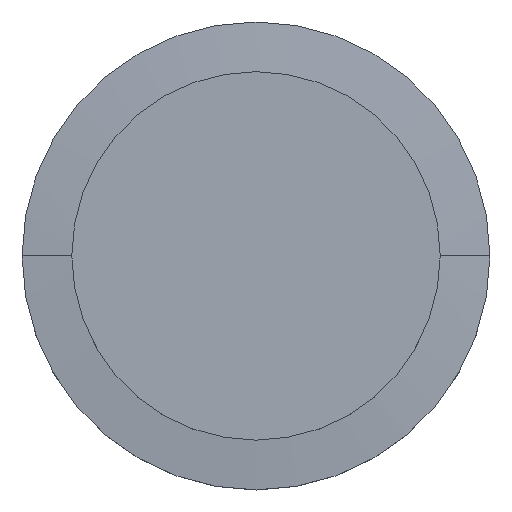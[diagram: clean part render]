
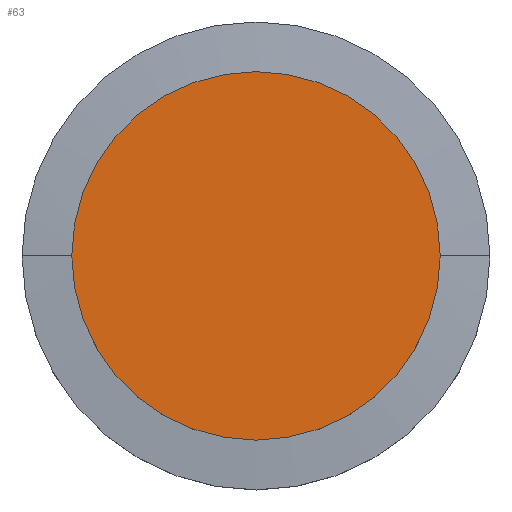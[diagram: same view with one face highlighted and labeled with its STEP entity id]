
A CAD part, top view. The second image highlights one B-rep face of the part: STEP entity #63.
In plain terms, the highlighted planar face has unit normal (0, 0, 1).
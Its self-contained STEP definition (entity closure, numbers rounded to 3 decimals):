
#63=ADVANCED_FACE('',(#83),#84,.T.);
#83=FACE_OUTER_BOUND('',#103,.T.);
#84=PLANE('',#104);
#103=EDGE_LOOP('',(#162,#163));
#104=AXIS2_PLACEMENT_3D('',#164,#165,#166);
#162=ORIENTED_EDGE('',*,*,#180,.T.);
#163=ORIENTED_EDGE('',*,*,#181,.T.);
#164=CARTESIAN_POINT('',(0.0,0.0,8.0));
#165=DIRECTION('',(0.0,0.0,1.0));
#166=DIRECTION('',(1.0,0.0,0.0));
#180=EDGE_CURVE('',#200,#204,#206,.T.);
#181=EDGE_CURVE('',#204,#200,#207,.T.);
#200=VERTEX_POINT('',#228);
#204=VERTEX_POINT('',#233);
#206=CIRCLE('',#236,10.0);
#207=CIRCLE('',#237,10.0);
#228=CARTESIAN_POINT('',(10.0,0.0,8.0));
#233=CARTESIAN_POINT('',(-10.0,0.,8.0));
#236=AXIS2_PLACEMENT_3D('',#270,#271,#272);
#237=AXIS2_PLACEMENT_3D('',#273,#274,#275);
#270=CARTESIAN_POINT('',(0.0,0.0,8.0));
#271=DIRECTION('',(0.0,0.0,1.0));
#272=DIRECTION('',(1.0,0.0,0.0));
#273=CARTESIAN_POINT('',(0.0,0.0,8.0));
#274=DIRECTION('',(0.0,0.0,1.0));
#275=DIRECTION('',(1.0,0.0,0.0));
